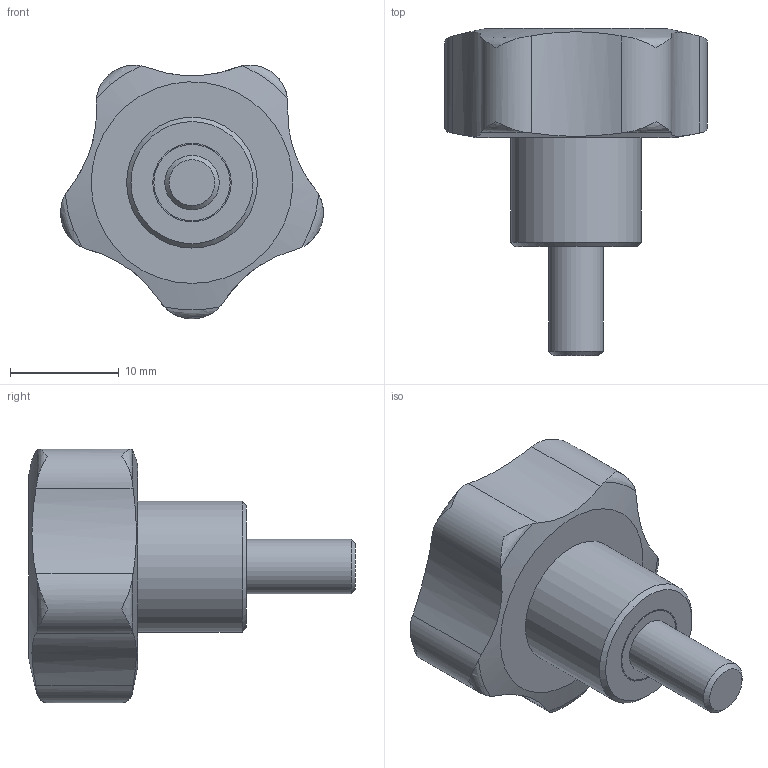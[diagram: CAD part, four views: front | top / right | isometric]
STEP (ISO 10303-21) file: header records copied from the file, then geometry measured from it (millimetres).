
FILE_DESCRIPTION( ( 'STEP AP203' ), '1' );
FILE_NAME( 'C:/Temp/Ganter_Step_05_03_2020/data/2_2/gn_5337_4/gn_5337_4_s/Star knob GN 5337.4-25-M5-10.stp', '2020-03-05T12:09:38', ( 'License CC BY-ND 4.0' ), ( 'CADENAS' ), ' ', 'PARTsolutions', ' ' );
FILE_SCHEMA( ( 'CONFIG_CONTROL_DESIGN' ) );
Length unit declared in the file: millimetre
Products named in the file (1): _Star knob GN 5337.4-25-M5-10
Bounding box: 24.11 x 30 x 23.28 mm (x, y, z)
Volume: 5011.4 mm3; surface area: 1981.7 mm2
Topology: 1 solids, 1 shells, 34 faces, 95 edges, 66 vertices
Faces by surface type: cylinder 14, torus 10, plane 5, cone 3, bspline 1, sphere 1
Full cylindrical faces by diameter (mm): 5 x1, 7 x1, 7.2 x1, 12 x1
Entity records: 1417 total; most frequent: CARTESIAN_POINT 629, ORIENTED_EDGE 164, DIRECTION 122, EDGE_CURVE 82, VERTEX_POINT 63, AXIS2_PLACEMENT_3D 56, B_SPLINE_CURVE_WITH_KNOTS 50, EDGE_LOOP 46
